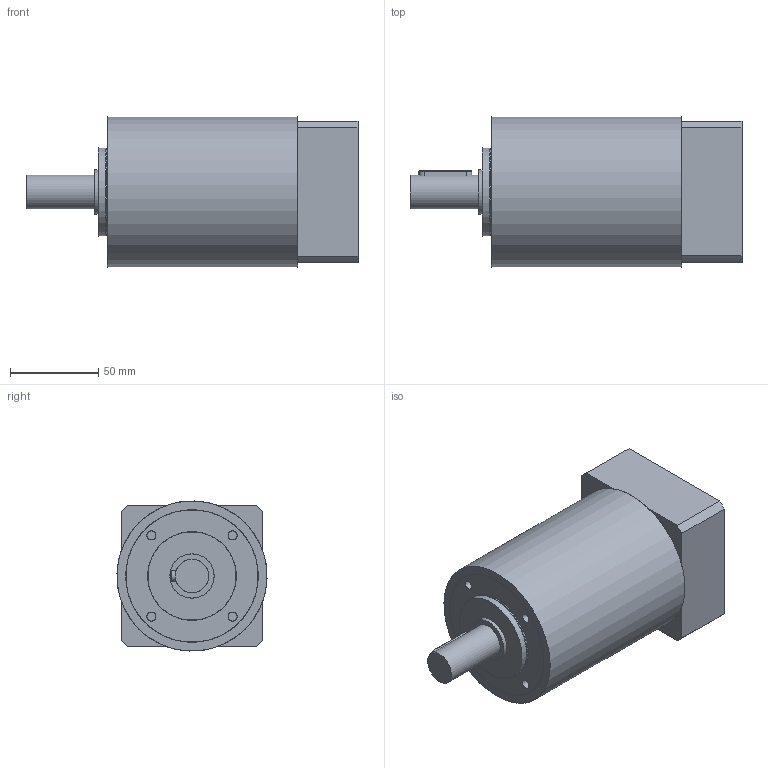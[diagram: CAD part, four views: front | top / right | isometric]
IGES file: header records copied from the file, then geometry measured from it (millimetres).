
Global section: file name: D:\ASSYCONF\WORK_DIRS\TEMP_#5\E00017964713MP040509082210_iges3D.igs; native system: NX V5.0; preprocessor: UGS NX IGES V5.0; date: 20090504.082327; units: millimetre
Bounding box: 188 x 84.95 x 84.95 mm (x, y, z)
Surface area: 123137 mm2 (no closed solid volume)
Topology: 0 solids, 0 shells, 100 faces, 2647 edges, 2601 vertices
Faces by surface type: revolution 56, extrusion 44
